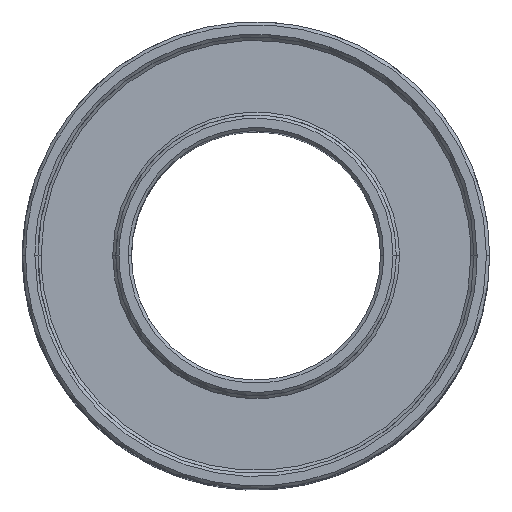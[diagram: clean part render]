
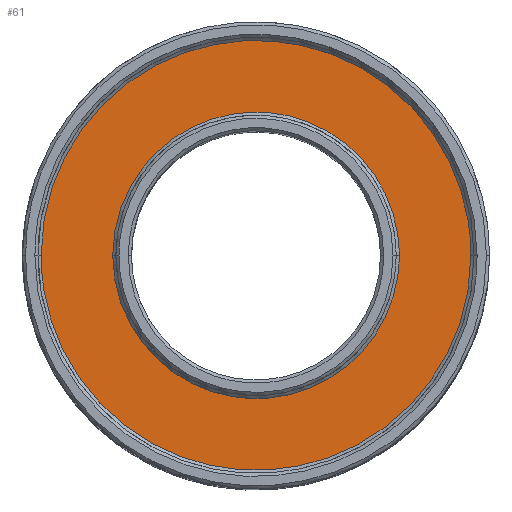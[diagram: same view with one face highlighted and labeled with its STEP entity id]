
A CAD part, top view. The second image highlights one B-rep face of the part: STEP entity #61.
In plain terms, the highlighted planar face has unit normal (0, 0, 1).
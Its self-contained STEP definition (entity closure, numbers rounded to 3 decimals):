
#16=FACE_BOUND('',#190,.T.);
#61=ADVANCED_FACE('',(#124,#16),#1141,.T.);
#124=FACE_OUTER_BOUND('',#189,.T.);
#189=EDGE_LOOP('',(#501,#502));
#190=EDGE_LOOP('',(#503,#504));
#501=ORIENTED_EDGE('',*,*,#798,.F.);
#502=ORIENTED_EDGE('',*,*,#633,.F.);
#503=ORIENTED_EDGE('',*,*,#797,.F.);
#504=ORIENTED_EDGE('',*,*,#639,.T.);
#633=EDGE_CURVE('',#1019,#1020,#934,.T.);
#639=EDGE_CURVE('',#1025,#1026,#937,.T.);
#797=EDGE_CURVE('',#1025,#1026,#990,.T.);
#798=EDGE_CURVE('',#1020,#1019,#991,.T.);
#934=(
BOUNDED_CURVE()
B_SPLINE_CURVE(2,(#2029,#2030,#2031,#2032,#2033),.UNSPECIFIED.,.F.,.F.)
B_SPLINE_CURVE_WITH_KNOTS((3,2,3),(-21.677,-10.838,
0.),.UNSPECIFIED.)
CURVE()
GEOMETRIC_REPRESENTATION_ITEM()
RATIONAL_B_SPLINE_CURVE((1.,0.707,1.,0.707,1.))
REPRESENTATION_ITEM('')
);
#937=(
BOUNDED_CURVE()
B_SPLINE_CURVE(2,(#2050,#2051,#2052,#2053,#2054),.UNSPECIFIED.,.F.,.F.)
B_SPLINE_CURVE_WITH_KNOTS((3,2,3),(0.,7.226,14.451),
 .UNSPECIFIED.)
CURVE()
GEOMETRIC_REPRESENTATION_ITEM()
RATIONAL_B_SPLINE_CURVE((1.,0.707,1.,0.707,1.))
REPRESENTATION_ITEM('')
);
#990=(
BOUNDED_CURVE()
B_SPLINE_CURVE(2,(#3244,#3245,#3246,#3247,#3248),.UNSPECIFIED.,.F.,.F.)
B_SPLINE_CURVE_WITH_KNOTS((3,2,3),(-14.451,-7.226,0.),
 .UNSPECIFIED.)
CURVE()
GEOMETRIC_REPRESENTATION_ITEM()
RATIONAL_B_SPLINE_CURVE((1.,0.707,1.,0.707,1.))
REPRESENTATION_ITEM('')
);
#991=(
BOUNDED_CURVE()
B_SPLINE_CURVE(2,(#3249,#3250,#3251,#3252,#3253),.UNSPECIFIED.,.F.,.F.)
B_SPLINE_CURVE_WITH_KNOTS((3,2,3),(-21.677,-10.838,
0.),.UNSPECIFIED.)
CURVE()
GEOMETRIC_REPRESENTATION_ITEM()
RATIONAL_B_SPLINE_CURVE((1.,0.707,1.,0.707,1.))
REPRESENTATION_ITEM('')
);
#1019=VERTEX_POINT('',#1837);
#1020=VERTEX_POINT('',#1838);
#1025=VERTEX_POINT('',#1843);
#1026=VERTEX_POINT('',#1844);
#1141=PLANE('',#1316);
#1316=AXIS2_PLACEMENT_3D('',#1602,#1360,$);
#1360=DIRECTION('',(0.,0.,1.));
#1602=CARTESIAN_POINT('',(-80.233,9.82,130.099));
#1837=CARTESIAN_POINT('',(-81.614,18.1,130.099));
#1838=CARTESIAN_POINT('',(-95.414,18.1,130.099));
#1843=CARTESIAN_POINT('',(-93.114,18.1,130.099));
#1844=CARTESIAN_POINT('',(-83.914,18.1,130.099));
#2029=CARTESIAN_POINT('',(-81.614,18.1,130.099));
#2030=CARTESIAN_POINT('',(-81.614,11.2,130.099));
#2031=CARTESIAN_POINT('',(-88.514,11.2,130.099));
#2032=CARTESIAN_POINT('',(-95.414,11.2,130.099));
#2033=CARTESIAN_POINT('',(-95.414,18.1,130.099));
#2050=CARTESIAN_POINT('',(-93.114,18.1,130.099));
#2051=CARTESIAN_POINT('',(-93.114,22.7,130.099));
#2052=CARTESIAN_POINT('',(-88.514,22.7,130.099));
#2053=CARTESIAN_POINT('',(-83.914,22.7,130.099));
#2054=CARTESIAN_POINT('',(-83.914,18.1,130.099));
#3244=CARTESIAN_POINT('',(-93.114,18.1,130.099));
#3245=CARTESIAN_POINT('',(-93.114,13.5,130.099));
#3246=CARTESIAN_POINT('',(-88.514,13.5,130.099));
#3247=CARTESIAN_POINT('',(-83.914,13.5,130.099));
#3248=CARTESIAN_POINT('',(-83.914,18.1,130.099));
#3249=CARTESIAN_POINT('',(-95.414,18.1,130.099));
#3250=CARTESIAN_POINT('',(-95.414,25.,130.099));
#3251=CARTESIAN_POINT('',(-88.514,25.,130.099));
#3252=CARTESIAN_POINT('',(-81.614,25.,130.099));
#3253=CARTESIAN_POINT('',(-81.614,18.1,130.099));
